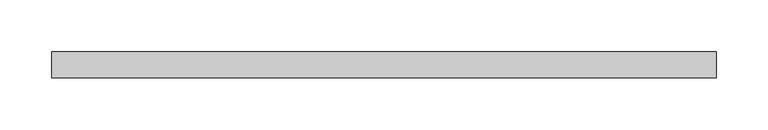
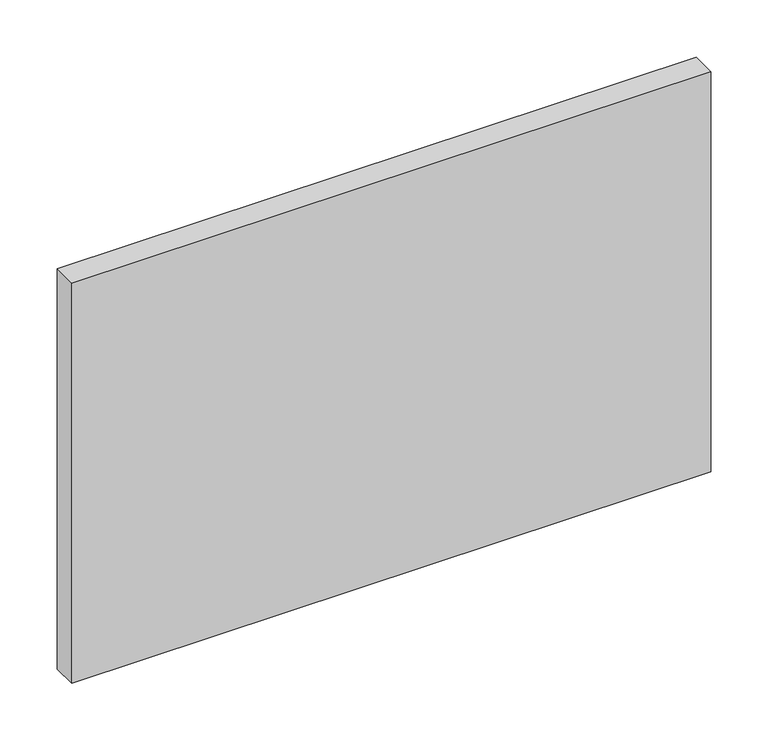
"""IFC4 building model written with IfcOpenShell, lengths in millimetres: plate geometry, システム パネル1 : ガラス."""

from ifc_helpers import new_model, si_unit, origin, origin_with_axes, place, context, project, spatial, polyline, outline, extrude, source, transform, mapped, element, save


def plate_3e90128c(model_context):
    return source(origin(), model_context, "Body", "SweptSolid", [
        extrude(outline(polyline([(320.8333333, 24.5), (-320.8333333, 24.5), (-320.8333333, 49.5), (320.8333333, 49.5), (320.8333333, 24.5)])), origin_with_axes(), (0.0, 0.0, 1.0), 425.0),
    ])


if __name__ == "__main__":
    model = new_model("IFC4")
    model_context = context("Model", 3, world=origin())
    ifc_project = project(units=[si_unit("LENGTHUNIT", "METRE", prefix="MILLI")], contexts=[model_context])
    site = spatial("IfcSite", under=ifc_project)
    building = spatial("IfcBuilding", under=site)
    placement = place(None, origin())
    plate_shape = plate_3e90128c(model_context)
    element("IfcPlate", 1, ObjectType="システム パネル1 : ガラス", at=placement, inside=building, context=model_context, shape_type="MappedRepresentation", body=[
        mapped(plate_shape, transform((0.0, 0.0, 0.0), x_axis=(1.0, 0.0, 0.0), y_axis=(0.0, 1.0, 0.0), z_axis=(0.0, 0.0, 1.0))),
    ])
    save(model, "model.ifc")
